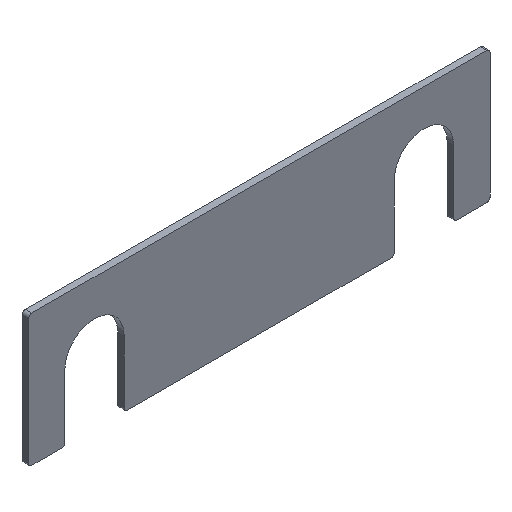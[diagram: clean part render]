
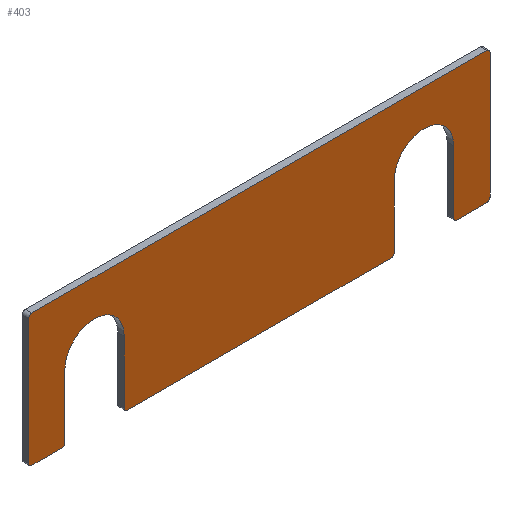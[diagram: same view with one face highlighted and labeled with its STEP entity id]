
A CAD part, isometric view. The second image highlights one B-rep face of the part: STEP entity #403.
In plain terms, the highlighted planar face has unit normal (0, -1, 0).
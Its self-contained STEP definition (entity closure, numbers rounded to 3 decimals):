
#16=PLANE('',#441);
#29=FACE_OUTER_BOUND('',#51,.T.);
#51=EDGE_LOOP('',(#279,#280,#281,#282,#283,#284,#285,#286,#287,#288,#289,
#290,#291,#292,#293,#294,#295,#296,#297,#298));
#73=LINE('',#617,#113);
#76=LINE('',#623,#116);
#77=LINE('',#627,#117);
#78=LINE('',#631,#118);
#79=LINE('',#635,#119);
#80=LINE('',#639,#120);
#81=LINE('',#643,#121);
#82=LINE('',#647,#122);
#83=LINE('',#651,#123);
#84=LINE('',#655,#124);
#113=VECTOR('',#491,10.);
#116=VECTOR('',#496,10.);
#117=VECTOR('',#499,10.);
#118=VECTOR('',#502,10.);
#119=VECTOR('',#505,10.);
#120=VECTOR('',#508,10.);
#121=VECTOR('',#511,10.);
#122=VECTOR('',#514,10.);
#123=VECTOR('',#517,10.);
#124=VECTOR('',#520,10.);
#152=CIRCLE('',#439,0.5);
#153=CIRCLE('',#442,0.5);
#154=CIRCLE('',#443,0.5);
#155=CIRCLE('',#444,0.5);
#156=CIRCLE('',#445,0.5);
#157=CIRCLE('',#446,0.5);
#158=CIRCLE('',#447,4.5);
#159=CIRCLE('',#448,0.5);
#160=CIRCLE('',#449,0.5);
#161=CIRCLE('',#450,4.5);
#173=VERTEX_POINT('',#610);
#174=VERTEX_POINT('',#612);
#175=VERTEX_POINT('',#616);
#177=VERTEX_POINT('',#622);
#178=VERTEX_POINT('',#624);
#179=VERTEX_POINT('',#626);
#180=VERTEX_POINT('',#628);
#181=VERTEX_POINT('',#630);
#182=VERTEX_POINT('',#632);
#183=VERTEX_POINT('',#634);
#184=VERTEX_POINT('',#636);
#185=VERTEX_POINT('',#638);
#186=VERTEX_POINT('',#640);
#187=VERTEX_POINT('',#642);
#188=VERTEX_POINT('',#644);
#189=VERTEX_POINT('',#646);
#190=VERTEX_POINT('',#648);
#191=VERTEX_POINT('',#650);
#192=VERTEX_POINT('',#652);
#193=VERTEX_POINT('',#654);
#213=EDGE_CURVE('',#173,#174,#152,.T.);
#215=EDGE_CURVE('',#175,#174,#73,.T.);
#218=EDGE_CURVE('',#177,#173,#76,.T.);
#219=EDGE_CURVE('',#178,#177,#153,.T.);
#220=EDGE_CURVE('',#179,#178,#77,.T.);
#221=EDGE_CURVE('',#180,#179,#154,.T.);
#222=EDGE_CURVE('',#181,#180,#78,.T.);
#223=EDGE_CURVE('',#182,#181,#155,.T.);
#224=EDGE_CURVE('',#183,#182,#79,.T.);
#225=EDGE_CURVE('',#184,#183,#156,.T.);
#226=EDGE_CURVE('',#185,#184,#80,.T.);
#227=EDGE_CURVE('',#186,#185,#157,.T.);
#228=EDGE_CURVE('',#187,#186,#81,.T.);
#229=EDGE_CURVE('',#187,#188,#158,.T.);
#230=EDGE_CURVE('',#188,#189,#82,.T.);
#231=EDGE_CURVE('',#190,#189,#159,.T.);
#232=EDGE_CURVE('',#191,#190,#83,.T.);
#233=EDGE_CURVE('',#192,#191,#160,.T.);
#234=EDGE_CURVE('',#193,#192,#84,.T.);
#235=EDGE_CURVE('',#193,#175,#161,.T.);
#279=ORIENTED_EDGE('',*,*,#213,.F.);
#280=ORIENTED_EDGE('',*,*,#218,.F.);
#281=ORIENTED_EDGE('',*,*,#219,.F.);
#282=ORIENTED_EDGE('',*,*,#220,.F.);
#283=ORIENTED_EDGE('',*,*,#221,.F.);
#284=ORIENTED_EDGE('',*,*,#222,.F.);
#285=ORIENTED_EDGE('',*,*,#223,.F.);
#286=ORIENTED_EDGE('',*,*,#224,.F.);
#287=ORIENTED_EDGE('',*,*,#225,.F.);
#288=ORIENTED_EDGE('',*,*,#226,.F.);
#289=ORIENTED_EDGE('',*,*,#227,.F.);
#290=ORIENTED_EDGE('',*,*,#228,.F.);
#291=ORIENTED_EDGE('',*,*,#229,.T.);
#292=ORIENTED_EDGE('',*,*,#230,.T.);
#293=ORIENTED_EDGE('',*,*,#231,.F.);
#294=ORIENTED_EDGE('',*,*,#232,.F.);
#295=ORIENTED_EDGE('',*,*,#233,.F.);
#296=ORIENTED_EDGE('',*,*,#234,.F.);
#297=ORIENTED_EDGE('',*,*,#235,.T.);
#298=ORIENTED_EDGE('',*,*,#215,.T.);
#403=ADVANCED_FACE('',(#29),#16,.F.);
#439=AXIS2_PLACEMENT_3D('',#613,#486,#487);
#441=AXIS2_PLACEMENT_3D('',#621,#494,#495);
#442=AXIS2_PLACEMENT_3D('',#625,#497,#498);
#443=AXIS2_PLACEMENT_3D('',#629,#500,#501);
#444=AXIS2_PLACEMENT_3D('',#633,#503,#504);
#445=AXIS2_PLACEMENT_3D('',#637,#506,#507);
#446=AXIS2_PLACEMENT_3D('',#641,#509,#510);
#447=AXIS2_PLACEMENT_3D('',#645,#512,#513);
#448=AXIS2_PLACEMENT_3D('',#649,#515,#516);
#449=AXIS2_PLACEMENT_3D('',#653,#518,#519);
#450=AXIS2_PLACEMENT_3D('',#656,#521,#522);
#486=DIRECTION('center_axis',(0.,1.,0.));
#487=DIRECTION('ref_axis',(-0.707,0.,-0.707));
#491=DIRECTION('',(0.,0.,-1.));
#494=DIRECTION('center_axis',(0.,1.,0.));
#495=DIRECTION('ref_axis',(1.,0.,0.));
#496=DIRECTION('',(-1.,0.,0.));
#497=DIRECTION('center_axis',(0.,1.,0.));
#498=DIRECTION('ref_axis',(0.707,0.,-0.707));
#499=DIRECTION('',(0.,0.,-1.));
#500=DIRECTION('center_axis',(0.,1.,0.));
#501=DIRECTION('ref_axis',(0.707,0.,0.707));
#502=DIRECTION('',(1.,0.,0.));
#503=DIRECTION('center_axis',(0.,1.,0.));
#504=DIRECTION('ref_axis',(-0.707,0.,0.707));
#505=DIRECTION('',(0.,0.,1.));
#506=DIRECTION('center_axis',(0.,1.,0.));
#507=DIRECTION('ref_axis',(-0.707,0.,-0.707));
#508=DIRECTION('',(-1.,0.,0.));
#509=DIRECTION('center_axis',(0.,1.,0.));
#510=DIRECTION('ref_axis',(0.707,0.,-0.707));
#511=DIRECTION('',(0.,0.,-1.));
#512=DIRECTION('center_axis',(0.,1.,0.));
#513=DIRECTION('ref_axis',(1.,0.,0.));
#514=DIRECTION('',(0.,0.,-1.));
#515=DIRECTION('center_axis',(0.,1.,0.));
#516=DIRECTION('ref_axis',(-0.707,0.,-0.707));
#517=DIRECTION('',(-1.,0.,0.));
#518=DIRECTION('center_axis',(0.,1.,0.));
#519=DIRECTION('ref_axis',(0.707,0.,-0.707));
#520=DIRECTION('',(0.,0.,-1.));
#521=DIRECTION('center_axis',(0.,1.,0.));
#522=DIRECTION('ref_axis',(1.,0.,0.));
#610=CARTESIAN_POINT('',(30.,0.,-10.));
#612=CARTESIAN_POINT('',(29.5,0.,-9.5));
#613=CARTESIAN_POINT('Origin',(30.,0.,-9.5));
#616=CARTESIAN_POINT('',(29.5,0.,0.));
#617=CARTESIAN_POINT('',(29.5,0.,0.));
#621=CARTESIAN_POINT('Origin',(0.,0.,0.));
#622=CARTESIAN_POINT('',(34.5,0.,-10.));
#623=CARTESIAN_POINT('',(35.,0.,-10.));
#624=CARTESIAN_POINT('',(35.,0.,-9.5));
#625=CARTESIAN_POINT('Origin',(34.5,0.,-9.5));
#626=CARTESIAN_POINT('',(35.,0.,9.5));
#627=CARTESIAN_POINT('',(35.,0.,10.));
#628=CARTESIAN_POINT('',(34.5,0.,10.));
#629=CARTESIAN_POINT('Origin',(34.5,0.,9.5));
#630=CARTESIAN_POINT('',(-34.5,0.,10.));
#631=CARTESIAN_POINT('',(-35.,0.,10.));
#632=CARTESIAN_POINT('',(-35.,0.,9.5));
#633=CARTESIAN_POINT('Origin',(-34.5,0.,9.5));
#634=CARTESIAN_POINT('',(-35.,0.,-9.5));
#635=CARTESIAN_POINT('',(-35.,0.,-10.));
#636=CARTESIAN_POINT('',(-34.5,0.,-10.));
#637=CARTESIAN_POINT('Origin',(-34.5,0.,-9.5));
#638=CARTESIAN_POINT('',(-30.,0.,-10.));
#639=CARTESIAN_POINT('',(35.,0.,-10.));
#640=CARTESIAN_POINT('',(-29.5,0.,-9.5));
#641=CARTESIAN_POINT('Origin',(-30.,0.,-9.5));
#642=CARTESIAN_POINT('',(-29.5,0.,0.));
#643=CARTESIAN_POINT('',(-29.5,0.,0.));
#644=CARTESIAN_POINT('',(-20.5,0.,0.));
#645=CARTESIAN_POINT('Origin',(-25.,0.,0.));
#646=CARTESIAN_POINT('',(-20.5,0.,-9.5));
#647=CARTESIAN_POINT('',(-20.5,0.,0.));
#648=CARTESIAN_POINT('',(-20.,0.,-10.));
#649=CARTESIAN_POINT('Origin',(-20.,0.,-9.5));
#650=CARTESIAN_POINT('',(20.,0.,-10.));
#651=CARTESIAN_POINT('',(35.,0.,-10.));
#652=CARTESIAN_POINT('',(20.5,0.,-9.5));
#653=CARTESIAN_POINT('Origin',(20.,0.,-9.5));
#654=CARTESIAN_POINT('',(20.5,0.,0.));
#655=CARTESIAN_POINT('',(20.5,0.,0.));
#656=CARTESIAN_POINT('Origin',(25.,0.,0.));
